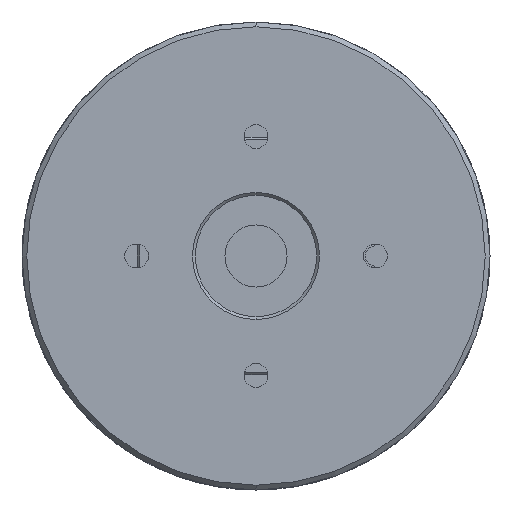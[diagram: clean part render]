
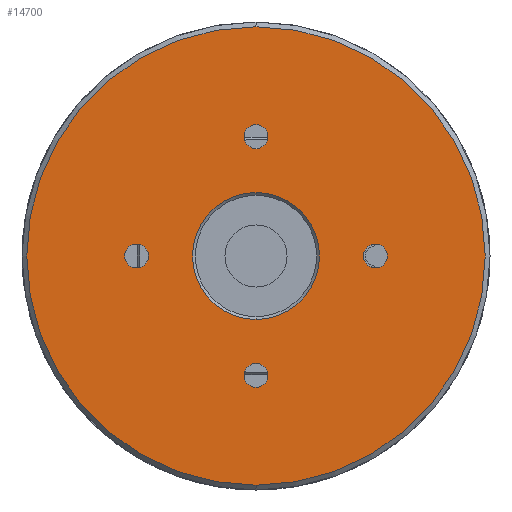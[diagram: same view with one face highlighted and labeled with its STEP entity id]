
A CAD part, left-side view. The second image highlights one B-rep face of the part: STEP entity #14700.
In plain terms, the highlighted planar face has unit normal (-1, 0, 0).
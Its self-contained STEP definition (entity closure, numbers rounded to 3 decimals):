
#178 = DIRECTION ( 'NONE',  ( -1., 0., 0. ) ) ;
#290 = DIRECTION ( 'NONE',  ( 0., 0., 1. ) ) ;
#438 = EDGE_CURVE ( 'NONE', #8731, #5473, #8258, .T. ) ;
#899 = VERTEX_POINT ( 'NONE', #14216 ) ;
#995 = DIRECTION ( 'NONE',  ( 1., 0., 0. ) ) ;
#999 = DIRECTION ( 'NONE',  ( 1., 0., 0. ) ) ;
#1012 = EDGE_CURVE ( 'NONE', #16544, #16273, #7968, .T. ) ;
#1123 = ORIENTED_EDGE ( 'NONE', *, *, #1433, .F. ) ;
#1433 = EDGE_CURVE ( 'NONE', #16432, #3262, #13250, .T. ) ;
#1523 = EDGE_CURVE ( 'NONE', #3262, #16432, #4225, .T. ) ;
#1729 = FACE_BOUND ( 'NONE', #9213, .T. ) ;
#1798 = CARTESIAN_POINT ( 'NONE',  ( 0., 24.5, 0. ) ) ;
#1881 = DIRECTION ( 'NONE',  ( 1., 0., 0. ) ) ;
#1964 = FACE_BOUND ( 'NONE', #16823, .T. ) ;
#2044 = EDGE_LOOP ( 'NONE', ( #15849, #9992 ) ) ;
#2240 = AXIS2_PLACEMENT_3D ( 'NONE', #8791, #995, #15140 ) ;
#2357 = CARTESIAN_POINT ( 'NONE',  ( 0., 12.5, 0. ) ) ;
#2482 = CIRCLE ( 'NONE', #5718, 1.25 ) ;
#2696 = DIRECTION ( 'NONE',  ( -1., 0., 0. ) ) ;
#3081 = CARTESIAN_POINT ( 'NONE',  ( 0., 0., -13.75 ) ) ;
#3105 = FACE_BOUND ( 'NONE', #5503, .T. ) ;
#3262 = VERTEX_POINT ( 'NONE', #16115 ) ;
#3346 = DIRECTION ( 'NONE',  ( 0., 0., -1. ) ) ;
#3440 = CARTESIAN_POINT ( 'NONE',  ( 0., 0., 24. ) ) ;
#3525 = VERTEX_POINT ( 'NONE', #5259 ) ;
#4079 = EDGE_LOOP ( 'NONE', ( #16723, #10486 ) ) ;
#4225 = CIRCLE ( 'NONE', #12978, 1.25 ) ;
#4317 = CARTESIAN_POINT ( 'NONE',  ( 0., 12.5, 0. ) ) ;
#4417 = CIRCLE ( 'NONE', #10732, 1.25 ) ;
#4470 = AXIS2_PLACEMENT_3D ( 'NONE', #7535, #11633, #11369 ) ;
#4640 = CIRCLE ( 'NONE', #9315, 6.65 ) ;
#5259 = CARTESIAN_POINT ( 'NONE',  ( 0., 0., 6.65 ) ) ;
#5285 = DIRECTION ( 'NONE',  ( -1., 0., 0. ) ) ;
#5473 = VERTEX_POINT ( 'NONE', #5934 ) ;
#5503 = EDGE_LOOP ( 'NONE', ( #13084, #15584 ) ) ;
#5718 = AXIS2_PLACEMENT_3D ( 'NONE', #10712, #10628, #290 ) ;
#5780 = ORIENTED_EDGE ( 'NONE', *, *, #16024, .F. ) ;
#5856 = CARTESIAN_POINT ( 'NONE',  ( 0., -12.5, 1.25 ) ) ;
#5934 = CARTESIAN_POINT ( 'NONE',  ( 0., 12.5, -1.25 ) ) ;
#6089 = CIRCLE ( 'NONE', #15433, 1.25 ) ;
#6249 = CARTESIAN_POINT ( 'NONE',  ( 0., 12.5, 1.25 ) ) ;
#6282 = EDGE_LOOP ( 'NONE', ( #12303, #6989 ) ) ;
#6462 = VERTEX_POINT ( 'NONE', #7439 ) ;
#6552 = DIRECTION ( 'NONE',  ( 0., 0., 1. ) ) ;
#6693 = EDGE_CURVE ( 'NONE', #6462, #899, #6089, .T. ) ;
#6989 = ORIENTED_EDGE ( 'NONE', *, *, #14952, .F. ) ;
#6990 = EDGE_CURVE ( 'NONE', #16802, #15638, #13242, .T. ) ;
#7346 = ORIENTED_EDGE ( 'NONE', *, *, #1523, .F. ) ;
#7439 = CARTESIAN_POINT ( 'NONE',  ( 0., 0., 13.75 ) ) ;
#7504 = CARTESIAN_POINT ( 'NONE',  ( 0., 0., 0. ) ) ;
#7535 = CARTESIAN_POINT ( 'NONE',  ( 0., -12.5, 0. ) ) ;
#7566 = DIRECTION ( 'NONE',  ( -1., 0., 0. ) ) ;
#7683 = CIRCLE ( 'NONE', #9881, 6.65 ) ;
#7770 = DIRECTION ( 'NONE',  ( -1., 0., 0. ) ) ;
#7947 = EDGE_CURVE ( 'NONE', #3525, #8061, #7683, .T. ) ;
#7968 = CIRCLE ( 'NONE', #9911, 1.25 ) ;
#8061 = VERTEX_POINT ( 'NONE', #9966 ) ;
#8258 = CIRCLE ( 'NONE', #14575, 1.25 ) ;
#8293 = CARTESIAN_POINT ( 'NONE',  ( 0., 0., 12.5 ) ) ;
#8313 = FACE_BOUND ( 'NONE', #4079, .T. ) ;
#8731 = VERTEX_POINT ( 'NONE', #6249 ) ;
#8791 = CARTESIAN_POINT ( 'NONE',  ( 0., 0., 0. ) ) ;
#8854 = EDGE_CURVE ( 'NONE', #16273, #16544, #2482, .T. ) ;
#9157 = CARTESIAN_POINT ( 'NONE',  ( 0., -12.5, 0. ) ) ;
#9213 = EDGE_LOOP ( 'NONE', ( #1123, #7346 ) ) ;
#9315 = AXIS2_PLACEMENT_3D ( 'NONE', #11684, #7770, #11956 ) ;
#9881 = AXIS2_PLACEMENT_3D ( 'NONE', #12017, #2696, #10811 ) ;
#9911 = AXIS2_PLACEMENT_3D ( 'NONE', #13846, #15114, #10830 ) ;
#9966 = CARTESIAN_POINT ( 'NONE',  ( 0., 0., -6.65 ) ) ;
#9992 = ORIENTED_EDGE ( 'NONE', *, *, #16639, .F. ) ;
#10329 = DIRECTION ( 'NONE',  ( 0., 0., -1. ) ) ;
#10486 = ORIENTED_EDGE ( 'NONE', *, *, #16911, .F. ) ;
#10628 = DIRECTION ( 'NONE',  ( -1., 0., 0. ) ) ;
#10712 = CARTESIAN_POINT ( 'NONE',  ( 0., 0., -12.5 ) ) ;
#10732 = AXIS2_PLACEMENT_3D ( 'NONE', #4317, #13772, #11070 ) ;
#10811 = DIRECTION ( 'NONE',  ( 0., 0., 1. ) ) ;
#10830 = DIRECTION ( 'NONE',  ( 0., 0., 1. ) ) ;
#11024 = AXIS2_PLACEMENT_3D ( 'NONE', #7504, #999, #10329 ) ;
#11031 = FACE_BOUND ( 'NONE', #6282, .T. ) ;
#11070 = DIRECTION ( 'NONE',  ( 0., 0., 1. ) ) ;
#11286 = AXIS2_PLACEMENT_3D ( 'NONE', #14404, #13100, #6552 ) ;
#11369 = DIRECTION ( 'NONE',  ( 0., 0., 1. ) ) ;
#11633 = DIRECTION ( 'NONE',  ( -1., 0., 0. ) ) ;
#11684 = CARTESIAN_POINT ( 'NONE',  ( 0., 0., 0. ) ) ;
#11784 = CIRCLE ( 'NONE', #2240, 24. ) ;
#11956 = DIRECTION ( 'NONE',  ( 0., 0., 1. ) ) ;
#12017 = CARTESIAN_POINT ( 'NONE',  ( 0., 0., 0. ) ) ;
#12157 = PLANE ( 'NONE',  #15988 ) ;
#12193 = CARTESIAN_POINT ( 'NONE',  ( 0., 0., -24. ) ) ;
#12303 = ORIENTED_EDGE ( 'NONE', *, *, #6693, .F. ) ;
#12797 = DIRECTION ( 'NONE',  ( 0., 0., 1. ) ) ;
#12978 = AXIS2_PLACEMENT_3D ( 'NONE', #9157, #5285, #14419 ) ;
#13084 = ORIENTED_EDGE ( 'NONE', *, *, #8854, .F. ) ;
#13100 = DIRECTION ( 'NONE',  ( -1., 0., 0. ) ) ;
#13242 = CIRCLE ( 'NONE', #11024, 24. ) ;
#13250 = CIRCLE ( 'NONE', #4470, 1.25 ) ;
#13542 = DIRECTION ( 'NONE',  ( 0., 0., 1. ) ) ;
#13772 = DIRECTION ( 'NONE',  ( -1., 0., 0. ) ) ;
#13846 = CARTESIAN_POINT ( 'NONE',  ( 0., 0., -12.5 ) ) ;
#14067 = CARTESIAN_POINT ( 'NONE',  ( 0., 0., -11.25 ) ) ;
#14216 = CARTESIAN_POINT ( 'NONE',  ( 0., 0., 11.25 ) ) ;
#14404 = CARTESIAN_POINT ( 'NONE',  ( 0., 0., 12.5 ) ) ;
#14419 = DIRECTION ( 'NONE',  ( 0., 0., 1. ) ) ;
#14575 = AXIS2_PLACEMENT_3D ( 'NONE', #2357, #7566, #12797 ) ;
#14700 = ADVANCED_FACE ( 'NONE', ( #11031, #1729, #3105, #8313, #1964, #14911 ), #12157, .F. ) ;
#14911 = FACE_OUTER_BOUND ( 'NONE', #2044, .T. ) ;
#14952 = EDGE_CURVE ( 'NONE', #899, #6462, #16540, .T. ) ;
#15114 = DIRECTION ( 'NONE',  ( -1., 0., 0. ) ) ;
#15140 = DIRECTION ( 'NONE',  ( 0., 0., -1. ) ) ;
#15433 = AXIS2_PLACEMENT_3D ( 'NONE', #8293, #178, #13542 ) ;
#15584 = ORIENTED_EDGE ( 'NONE', *, *, #1012, .F. ) ;
#15638 = VERTEX_POINT ( 'NONE', #3440 ) ;
#15849 = ORIENTED_EDGE ( 'NONE', *, *, #6990, .F. ) ;
#15988 = AXIS2_PLACEMENT_3D ( 'NONE', #1798, #1881, #3346 ) ;
#16024 = EDGE_CURVE ( 'NONE', #8061, #3525, #4640, .T. ) ;
#16115 = CARTESIAN_POINT ( 'NONE',  ( 0., -12.5, -1.25 ) ) ;
#16273 = VERTEX_POINT ( 'NONE', #14067 ) ;
#16432 = VERTEX_POINT ( 'NONE', #5856 ) ;
#16540 = CIRCLE ( 'NONE', #11286, 1.25 ) ;
#16544 = VERTEX_POINT ( 'NONE', #3081 ) ;
#16639 = EDGE_CURVE ( 'NONE', #15638, #16802, #11784, .T. ) ;
#16723 = ORIENTED_EDGE ( 'NONE', *, *, #438, .F. ) ;
#16802 = VERTEX_POINT ( 'NONE', #12193 ) ;
#16823 = EDGE_LOOP ( 'NONE', ( #16919, #5780 ) ) ;
#16911 = EDGE_CURVE ( 'NONE', #5473, #8731, #4417, .T. ) ;
#16919 = ORIENTED_EDGE ( 'NONE', *, *, #7947, .F. ) ;
